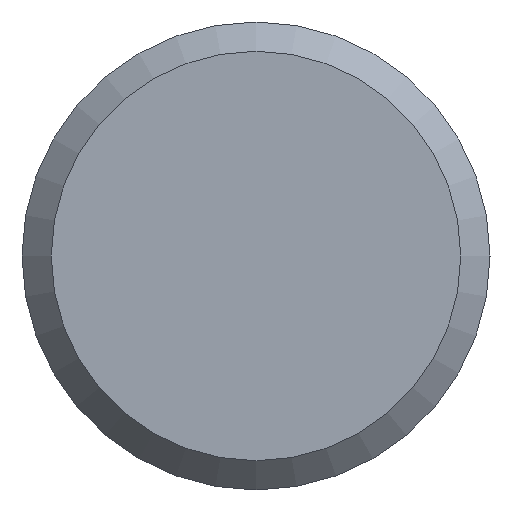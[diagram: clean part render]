
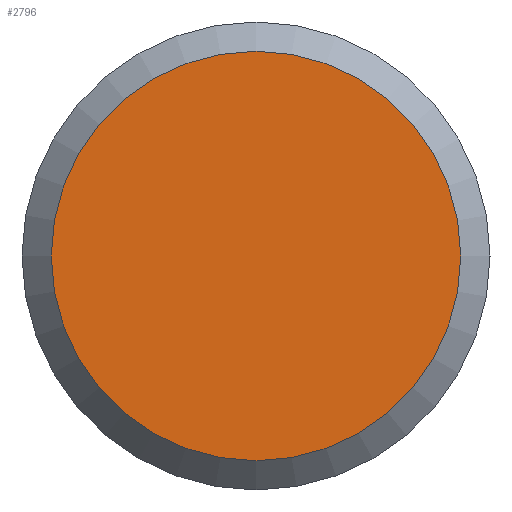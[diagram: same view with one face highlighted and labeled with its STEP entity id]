
A CAD part, left-side view. The second image highlights one B-rep face of the part: STEP entity #2796.
In plain terms, the highlighted planar face has unit normal (-1, 0, 0).
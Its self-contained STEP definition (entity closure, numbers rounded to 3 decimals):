
#1010=PLANE('',#2575);
#1052=ORIENTED_EDGE('',*,*,#1424,.F.);
#1236=CIRCLE('',#2574,3.5);
#1330=VERTEX_POINT('',#2289);
#1424=EDGE_CURVE('',#1330,#1330,#1236,.T.);
#1522=EDGE_LOOP('',(#1052));
#1710=FACE_BOUND('',#1522,.T.);
#1905=DIRECTION('',(1.,0.,0.));
#1906=DIRECTION('',(0.,-3.5,0.));
#1907=DIRECTION('',(-1.,0.,0.));
#1908=DIRECTION('',(0.,1.,0.));
#2289=CARTESIAN_POINT('',(53.295,144.443,0.));
#2290=CARTESIAN_POINT('',(53.295,147.943,0.));
#2291=CARTESIAN_POINT('',(53.295,147.943,0.));
#2574=AXIS2_PLACEMENT_3D('',#2290,#1905,#1906);
#2575=AXIS2_PLACEMENT_3D('',#2291,#1907,#1908);
#2796=ADVANCED_FACE('',(#1710),#1010,.T.);
